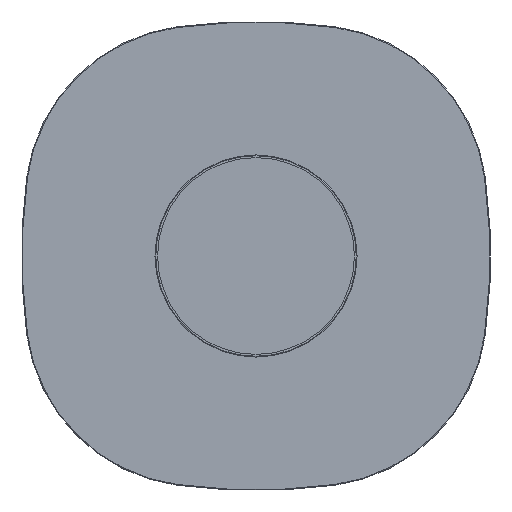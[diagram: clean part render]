
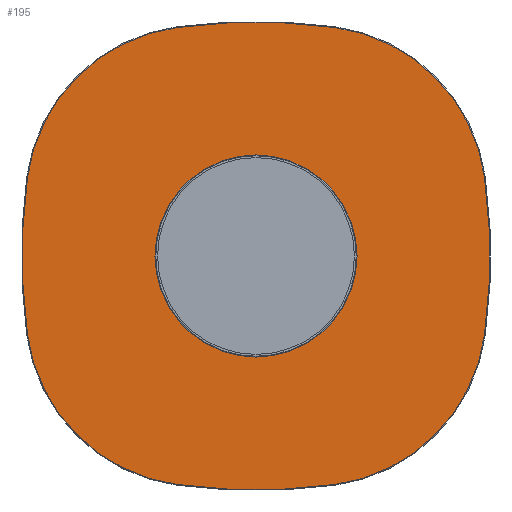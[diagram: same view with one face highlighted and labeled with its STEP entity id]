
A CAD part, front view. The second image highlights one B-rep face of the part: STEP entity #195.
In plain terms, the highlighted planar face has unit normal (0, -1, 0).
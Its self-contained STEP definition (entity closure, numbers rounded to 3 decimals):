
#105=CARTESIAN_POINT('',(0.,457.451,0.));
#106=DIRECTION('',(0.0,1.0,0.0));
#107=DIRECTION('',(0.0,0.0,-1.0));
#108=AXIS2_PLACEMENT_3D('',#105,#106,#107);
#109=PLANE('',#108);
#110=CARTESIAN_POINT('',(301.992,457.451,104.053));
#111=VERTEX_POINT('',#110);
#112=CARTESIAN_POINT('',(301.992,457.451,-104.053));
#113=VERTEX_POINT('',#112);
#114=CARTESIAN_POINT('',(-467.0,457.451,0.));
#115=DIRECTION('',(0.,1.0,0.));
#116=DIRECTION('',(0.991,0.,0.134));
#117=AXIS2_PLACEMENT_3D('',#114,#115,#116);
#118=CIRCLE('',#117,776.);
#119=EDGE_CURVE('',#111,#113,#118,.T.);
#120=ORIENTED_EDGE('',*,*,#119,.F.);
#121=CARTESIAN_POINT('',(104.053,457.451,301.992));
#122=VERTEX_POINT('',#121);
#123=CARTESIAN_POINT('',(73.078,457.451,73.078));
#124=DIRECTION('',(0.,1.0,0.));
#125=DIRECTION('',(0.134,0.,0.991));
#126=AXIS2_PLACEMENT_3D('',#123,#124,#125);
#127=CIRCLE('',#126,231.);
#128=EDGE_CURVE('',#122,#111,#127,.T.);
#129=ORIENTED_EDGE('',*,*,#128,.F.);
#130=CARTESIAN_POINT('',(-104.053,457.451,301.992));
#131=VERTEX_POINT('',#130);
#132=CARTESIAN_POINT('',(0.,457.451,-467.0));
#133=DIRECTION('',(0.,1.0,0.));
#134=DIRECTION('',(-0.134,0.,0.991));
#135=AXIS2_PLACEMENT_3D('',#132,#133,#134);
#136=CIRCLE('',#135,776.);
#137=EDGE_CURVE('',#131,#122,#136,.T.);
#138=ORIENTED_EDGE('',*,*,#137,.F.);
#139=CARTESIAN_POINT('',(-301.992,457.451,104.053));
#140=VERTEX_POINT('',#139);
#141=CARTESIAN_POINT('',(-73.078,457.451,73.078));
#142=DIRECTION('',(0.,1.0,0.));
#143=DIRECTION('',(-0.991,0.,0.134));
#144=AXIS2_PLACEMENT_3D('',#141,#142,#143);
#145=CIRCLE('',#144,231.);
#146=EDGE_CURVE('',#140,#131,#145,.T.);
#147=ORIENTED_EDGE('',*,*,#146,.F.);
#148=CARTESIAN_POINT('',(-301.992,457.451,-104.053));
#149=VERTEX_POINT('',#148);
#150=CARTESIAN_POINT('',(467.0,457.451,0.));
#151=DIRECTION('',(0.,1.0,0.));
#152=DIRECTION('',(-0.991,0.,-0.134));
#153=AXIS2_PLACEMENT_3D('',#150,#151,#152);
#154=CIRCLE('',#153,776.0);
#155=EDGE_CURVE('',#149,#140,#154,.T.);
#156=ORIENTED_EDGE('',*,*,#155,.F.);
#157=CARTESIAN_POINT('',(-104.053,457.451,-301.992));
#158=VERTEX_POINT('',#157);
#159=CARTESIAN_POINT('',(-73.078,457.451,-73.078));
#160=DIRECTION('',(0.,1.0,0.));
#161=DIRECTION('',(-0.134,0.,-0.991));
#162=AXIS2_PLACEMENT_3D('',#159,#160,#161);
#163=CIRCLE('',#162,231.);
#164=EDGE_CURVE('',#158,#149,#163,.T.);
#165=ORIENTED_EDGE('',*,*,#164,.F.);
#166=CARTESIAN_POINT('',(104.053,457.451,-301.992));
#167=VERTEX_POINT('',#166);
#168=CARTESIAN_POINT('',(0.,457.451,467.0));
#169=DIRECTION('',(0.,1.0,0.));
#170=DIRECTION('',(0.134,0.,-0.991));
#171=AXIS2_PLACEMENT_3D('',#168,#169,#170);
#172=CIRCLE('',#171,776.);
#173=EDGE_CURVE('',#167,#158,#172,.T.);
#174=ORIENTED_EDGE('',*,*,#173,.F.);
#175=CARTESIAN_POINT('',(73.078,457.451,-73.078));
#176=DIRECTION('',(0.,1.0,0.));
#177=DIRECTION('',(0.991,0.,-0.134));
#178=AXIS2_PLACEMENT_3D('',#175,#176,#177);
#179=CIRCLE('',#178,231.);
#180=EDGE_CURVE('',#113,#167,#179,.T.);
#181=ORIENTED_EDGE('',*,*,#180,.F.);
#182=EDGE_LOOP('',(#120,#129,#138,#147,#156,#165,#174,#181));
#183=FACE_OUTER_BOUND('',#182,.T.);
#184=CARTESIAN_POINT('',(0.,457.451,-19.75));
#185=VERTEX_POINT('',#184);
#186=CARTESIAN_POINT('',(0.,457.451,0.));
#187=DIRECTION('',(0.0,-1.0,0.0));
#188=DIRECTION('',(0.0,0.0,1.0));
#189=AXIS2_PLACEMENT_3D('',#186,#187,#188);
#190=CIRCLE('',#189,19.75);
#191=EDGE_CURVE('',#185,#185,#190,.T.);
#192=ORIENTED_EDGE('',*,*,#191,.F.);
#193=EDGE_LOOP('',(#192));
#194=FACE_BOUND('',#193,.T.);
#195=ADVANCED_FACE('',(#183,#194),#109,.F.);
